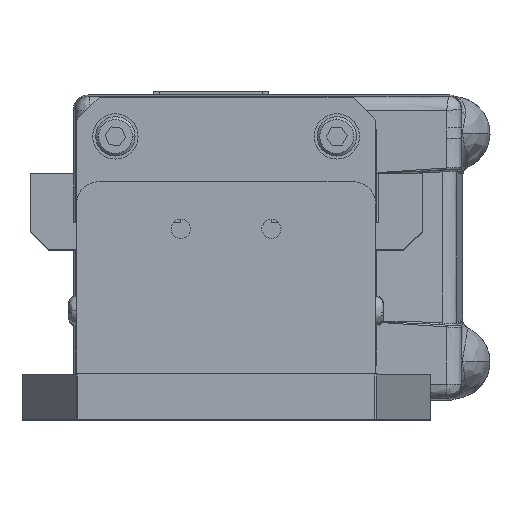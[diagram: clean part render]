
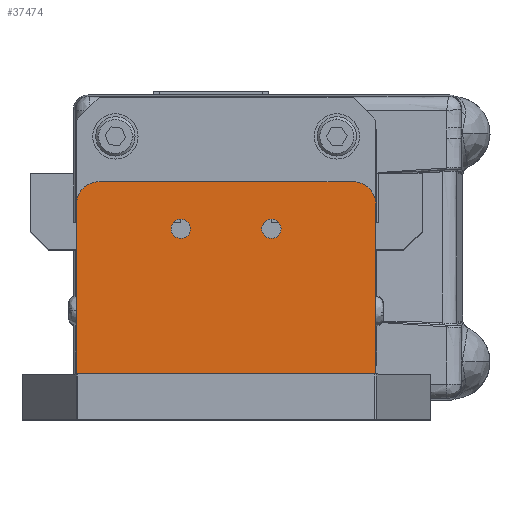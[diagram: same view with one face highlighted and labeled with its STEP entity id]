
A CAD part, top view. The second image highlights one B-rep face of the part: STEP entity #37474.
In plain terms, the highlighted planar face has unit normal (0, 0, 1).
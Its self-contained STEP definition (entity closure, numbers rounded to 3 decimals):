
#1331 = CARTESIAN_POINT ( 'NONE',  ( 15.958, 26.67, 83.82 ) ) ;
#2901 = DIRECTION ( 'NONE',  ( 1., 0., 0. ) ) ;
#3733 = DIRECTION ( 'NONE',  ( 0., -1., 0. ) ) ;
#4612 = ORIENTED_EDGE ( 'NONE', *, *, #52332, .T. ) ;
#4665 = DIRECTION ( 'NONE',  ( 1., 0., 0. ) ) ;
#4772 = DIRECTION ( 'NONE',  ( 0., 0., -1. ) ) ;
#4792 = CARTESIAN_POINT ( 'NONE',  ( 38.735, 33.274, 83.82 ) ) ;
#4845 = CARTESIAN_POINT ( 'NONE',  ( 14.605, 26.67, 83.82 ) ) ;
#4983 = ORIENTED_EDGE ( 'NONE', *, *, #52426, .T. ) ;
#5410 = EDGE_LOOP ( 'NONE', ( #10041, #10347 ) ) ;
#5524 = DIRECTION ( 'NONE',  ( 1., 0., 0. ) ) ;
#6124 = CARTESIAN_POINT ( 'NONE',  ( 25.952, 26.67, 83.82 ) ) ;
#6189 = VERTEX_POINT ( 'NONE', #15755 ) ;
#6295 = DIRECTION ( 'NONE',  ( 1., 0., 0. ) ) ;
#6374 = DIRECTION ( 'NONE',  ( 0., 0., 1. ) ) ;
#6525 = EDGE_LOOP ( 'NONE', ( #8449, #9773 ) ) ;
#6535 = PLANE ( 'NONE',  #46856 ) ;
#6569 = ORIENTED_EDGE ( 'NONE', *, *, #51229, .T. ) ;
#6879 = EDGE_LOOP ( 'NONE', ( #4612, #4983, #6569, #7021, #7347, #7655 ) ) ;
#7021 = ORIENTED_EDGE ( 'NONE', *, *, #51446, .T. ) ;
#7026 = CARTESIAN_POINT ( 'NONE',  ( 41.91, 33.274, 83.82 ) ) ;
#7268 = VERTEX_POINT ( 'NONE', #41556 ) ;
#7347 = ORIENTED_EDGE ( 'NONE', *, *, #51806, .T. ) ;
#7476 = VERTEX_POINT ( 'NONE', #69394 ) ;
#7655 = ORIENTED_EDGE ( 'NONE', *, *, #52019, .T. ) ;
#7742 = CARTESIAN_POINT ( 'NONE',  ( 14.605, 26.67, 83.82 ) ) ;
#7884 = VERTEX_POINT ( 'NONE', #35309 ) ;
#8449 = ORIENTED_EDGE ( 'NONE', *, *, #67382, .T. ) ;
#8570 = EDGE_CURVE ( 'NONE', #32343, #67785, #43673, .T. ) ;
#9543 = AXIS2_PLACEMENT_3D ( 'NONE', #4845, #4772, #4665 ) ;
#9773 = ORIENTED_EDGE ( 'NONE', *, *, #51112, .T. ) ;
#10041 = ORIENTED_EDGE ( 'NONE', *, *, #67608, .T. ) ;
#10347 = ORIENTED_EDGE ( 'NONE', *, *, #8570, .T. ) ;
#13436 = DIRECTION ( 'NONE',  ( 1., 0., 0. ) ) ;
#14072 = VERTEX_POINT ( 'NONE', #73247 ) ;
#15755 = CARTESIAN_POINT ( 'NONE',  ( 0., 30.099, 83.82 ) ) ;
#16225 = AXIS2_PLACEMENT_3D ( 'NONE', #73414, #39203, #5524 ) ;
#17839 = DIRECTION ( 'NONE',  ( 0., 0., -1. ) ) ;
#18572 = DIRECTION ( 'NONE',  ( -1., 0., 0. ) ) ;
#20680 = CARTESIAN_POINT ( 'NONE',  ( 13.252, 26.67, 83.82 ) ) ;
#21890 = AXIS2_PLACEMENT_3D ( 'NONE', #61393, #27355, #67183 ) ;
#22062 = CARTESIAN_POINT ( 'NONE',  ( 28.658, 26.67, 83.82 ) ) ;
#23635 = AXIS2_PLACEMENT_3D ( 'NONE', #7742, #47179, #13436 ) ;
#23642 = AXIS2_PLACEMENT_3D ( 'NONE', #70917, #36626, #2901 ) ;
#24149 = AXIS2_PLACEMENT_3D ( 'NONE', #51600, #17839, #57398 ) ;
#24668 = VERTEX_POINT ( 'NONE', #22062 ) ;
#26236 = CARTESIAN_POINT ( 'NONE',  ( 0., 33.274, 83.82 ) ) ;
#26388 = CARTESIAN_POINT ( 'NONE',  ( 41.91, 33.274, 83.82 ) ) ;
#27355 = DIRECTION ( 'NONE',  ( 0., 0., 1. ) ) ;
#32343 = VERTEX_POINT ( 'NONE', #20680 ) ;
#32468 = LINE ( 'NONE', #26388, #34517 ) ;
#34517 = VECTOR ( 'NONE', #37637, 1000. ) ;
#34844 = VERTEX_POINT ( 'NONE', #4792 ) ;
#35309 = CARTESIAN_POINT ( 'NONE',  ( 3.175, 33.274, 83.82 ) ) ;
#36428 = FACE_BOUND ( 'NONE', #5410, .T. ) ;
#36626 = DIRECTION ( 'NONE',  ( 0., 0., 1. ) ) ;
#36851 = FACE_BOUND ( 'NONE', #6525, .T. ) ;
#36981 = FACE_OUTER_BOUND ( 'NONE', #6879, .T. ) ;
#37474 = ADVANCED_FACE ( 'NONE', ( #36981, #36851, #36428 ), #6535, .T. ) ;
#37637 = DIRECTION ( 'NONE',  ( 0., 1., 0. ) ) ;
#39203 = DIRECTION ( 'NONE',  ( 0., 0., -1. ) ) ;
#40182 = CIRCLE ( 'NONE', #21890, 3.175 ) ;
#41556 = CARTESIAN_POINT ( 'NONE',  ( 41.91, 6.35, 83.82 ) ) ;
#43673 = CIRCLE ( 'NONE', #9543, 1.353 ) ;
#46856 = AXIS2_PLACEMENT_3D ( 'NONE', #7026, #6374, #6295 ) ;
#47179 = DIRECTION ( 'NONE',  ( 0., 0., -1. ) ) ;
#48152 = VECTOR ( 'NONE', #67510, 1000. ) ;
#48577 = LINE ( 'NONE', #61745, #48152 ) ;
#51112 = EDGE_CURVE ( 'NONE', #71432, #24668, #61895, .T. ) ;
#51229 = EDGE_CURVE ( 'NONE', #34844, #7884, #59026, .T. ) ;
#51446 = EDGE_CURVE ( 'NONE', #7884, #6189, #62504, .T. ) ;
#51600 = CARTESIAN_POINT ( 'NONE',  ( 27.305, 26.67, 83.82 ) ) ;
#51806 = EDGE_CURVE ( 'NONE', #6189, #7476, #54956, .T. ) ;
#52019 = EDGE_CURVE ( 'NONE', #7476, #7268, #48577, .T. ) ;
#52332 = EDGE_CURVE ( 'NONE', #7268, #14072, #32468, .T. ) ;
#52426 = EDGE_CURVE ( 'NONE', #14072, #34844, #40182, .T. ) ;
#53714 = CIRCLE ( 'NONE', #23635, 1.353 ) ;
#54396 = VECTOR ( 'NONE', #3733, 1000. ) ;
#54956 = LINE ( 'NONE', #26236, #54396 ) ;
#55286 = CIRCLE ( 'NONE', #16225, 1.353 ) ;
#56234 = VECTOR ( 'NONE', #18572, 1000. ) ;
#57398 = DIRECTION ( 'NONE',  ( 1., 0., 0. ) ) ;
#58135 = CARTESIAN_POINT ( 'NONE',  ( 41.91, 33.274, 83.82 ) ) ;
#59026 = LINE ( 'NONE', #58135, #56234 ) ;
#61393 = CARTESIAN_POINT ( 'NONE',  ( 38.735, 30.099, 83.82 ) ) ;
#61745 = CARTESIAN_POINT ( 'NONE',  ( 41.91, 6.35, 83.82 ) ) ;
#61895 = CIRCLE ( 'NONE', #24149, 1.353 ) ;
#62504 = CIRCLE ( 'NONE', #23642, 3.175 ) ;
#67183 = DIRECTION ( 'NONE',  ( 1., 0., 0. ) ) ;
#67382 = EDGE_CURVE ( 'NONE', #24668, #71432, #55286, .T. ) ;
#67510 = DIRECTION ( 'NONE',  ( 1., 0., 0. ) ) ;
#67608 = EDGE_CURVE ( 'NONE', #67785, #32343, #53714, .T. ) ;
#67785 = VERTEX_POINT ( 'NONE', #1331 ) ;
#69394 = CARTESIAN_POINT ( 'NONE',  ( 0., 6.35, 83.82 ) ) ;
#70917 = CARTESIAN_POINT ( 'NONE',  ( 3.175, 30.099, 83.82 ) ) ;
#71432 = VERTEX_POINT ( 'NONE', #6124 ) ;
#73247 = CARTESIAN_POINT ( 'NONE',  ( 41.91, 30.099, 83.82 ) ) ;
#73414 = CARTESIAN_POINT ( 'NONE',  ( 27.305, 26.67, 83.82 ) ) ;
